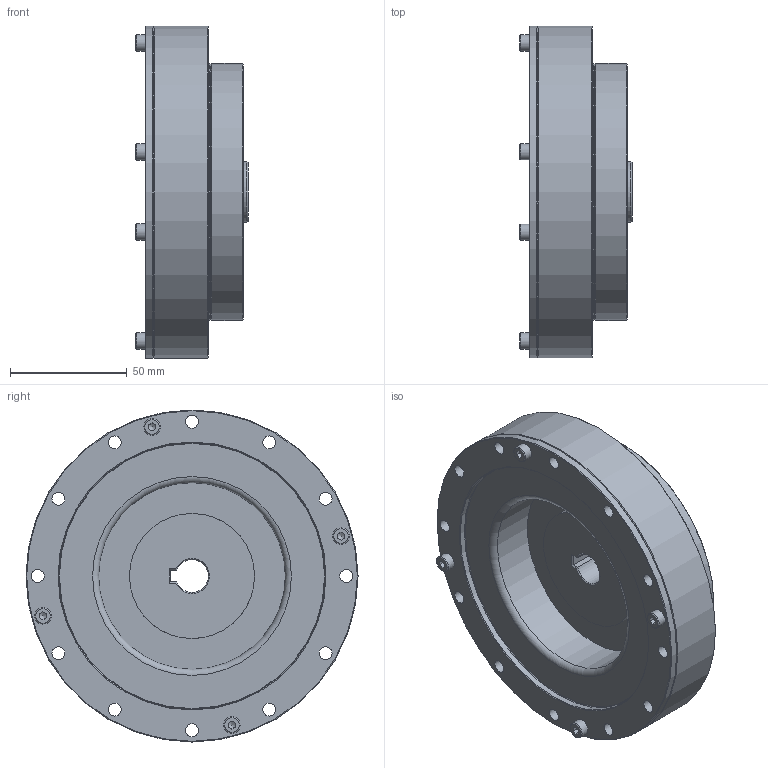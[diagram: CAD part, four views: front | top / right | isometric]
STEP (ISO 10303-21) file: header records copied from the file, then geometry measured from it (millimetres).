
FILE_DESCRIPTION(/* description */ (''),/* implementation_level */ '2;1');
FILE_NAME(/* name */ '\\Hiwin.tw\dfs\TB00F\研發課二組\\X2\6A5F5BC67D1A\X0\\1.設計\01-DT\DT-圖面\2.\X2\7D4454085716\X0\\模型\DGH-PO\DGH-32-PO\DGH-32-XX-PO_v2.stp',/* time_stamp */ '2024-09-27T14:29:04+08:00',/* author */ ('chiayu.chen'),/* organization */ (''),/* preprocessor_version */ 'ST-DEVELOPER v15.2',/* originating_system */ 'Autodesk Inventor 2014',/* authorisation */ '');
FILE_SCHEMA (('AUTOMOTIVE_DESIGN { 1 0 10303 214 3 1 1 }'));
Length unit declared in the file: centimetre
Products named in the file (1): AK000RG1
Bounding box: 48 x 142 x 142 mm (x, y, z)
Volume: 409784.8 mm3; surface area: 76247 mm2
Topology: 1 solids, 13 shells, 512 faces, 1210 edges, 765 vertices
Faces by surface type: cylinder 196, plane 173, torus 65, cone 55, sphere 23
Full cylindrical faces by diameter (mm): 2 x2, 3.242 x8, 4 x8, 4.134 x16, 4.5 x8, 5.5 x28, 7 x8, 8 x4, 24.9 x1, 26 x1, 35 x1, 53.5 x1, 63.04 x1, 75.82 x1, 79.75 x1, 79.8 x1, 110 x2, 114 x1, 122 x1, 142 x2
Entity records: 13322 total; most frequent: DIRECTION 2480, CARTESIAN_POINT 2147, ORIENTED_EDGE 1872, AXIS2_PLACEMENT_3D 1129, EDGE_CURVE 890, EDGE_LOOP 778, VERTEX_POINT 636, CIRCLE 616
